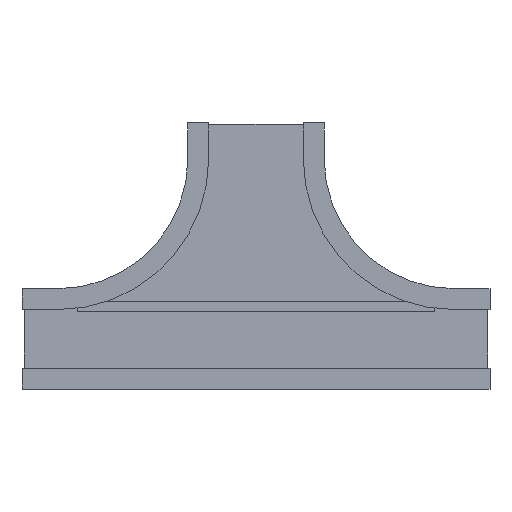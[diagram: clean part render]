
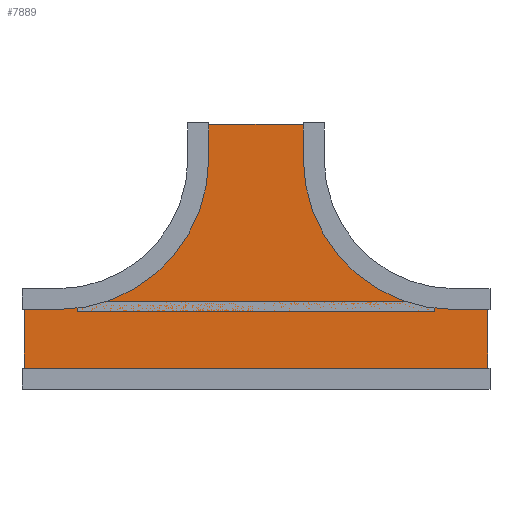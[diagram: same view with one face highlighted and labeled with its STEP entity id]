
A CAD part, front view. The second image highlights one B-rep face of the part: STEP entity #7889.
In plain terms, the highlighted planar face has unit normal (0, -1, 0).
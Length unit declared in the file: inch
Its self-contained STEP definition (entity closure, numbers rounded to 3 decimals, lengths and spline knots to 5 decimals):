
#7698=DIRECTION('',(1.,0.,0.));
#7699=VECTOR('',#7698,8.875);
#7700=CARTESIAN_POINT('',(-4.4375,0.,0.));
#7701=LINE('',#7700,#7699);
#7702=DIRECTION('',(0.,0.,-1.));
#7703=VECTOR('',#7702,2.875);
#7704=CARTESIAN_POINT('',(4.4375,0.,0.));
#7705=LINE('',#7704,#7703);
#7706=CARTESIAN_POINT('',(16.5,0.,-2.875));
#7707=DIRECTION('',(0.,-1.,0.));
#7708=DIRECTION('',(-1.,0.,0.));
#7709=AXIS2_PLACEMENT_3D('',#7706,#7707,#7708);
#7711=DIRECTION('',(1.,0.,0.));
#7712=VECTOR('',#7711,2.875);
#7713=CARTESIAN_POINT('',(16.5,0.,-14.9375));
#7714=LINE('',#7713,#7712);
#7715=DIRECTION('',(0.,0.,-1.));
#7716=VECTOR('',#7715,5.875);
#7717=CARTESIAN_POINT('',(19.375,0.,-14.9375));
#7718=LINE('',#7717,#7716);
#7719=DIRECTION('',(-1.,0.,0.));
#7720=VECTOR('',#7719,38.75);
#7721=CARTESIAN_POINT('',(19.375,0.,-20.8125));
#7722=LINE('',#7721,#7720);
#7723=DIRECTION('',(0.,0.,1.));
#7724=VECTOR('',#7723,5.875);
#7725=CARTESIAN_POINT('',(-19.375,0.,-20.8125));
#7726=LINE('',#7725,#7724);
#7727=DIRECTION('',(1.,0.,0.));
#7728=VECTOR('',#7727,2.875);
#7729=CARTESIAN_POINT('',(-19.375,0.,-14.9375));
#7730=LINE('',#7729,#7728);
#7731=CARTESIAN_POINT('',(-16.5,0.,-2.875));
#7732=DIRECTION('',(0.,-1.,0.));
#7733=DIRECTION('',(0.,0.,-1.));
#7734=AXIS2_PLACEMENT_3D('',#7731,#7732,#7733);
#7736=DIRECTION('',(0.,0.,1.));
#7737=VECTOR('',#7736,2.875);
#7738=CARTESIAN_POINT('',(-4.4375,0.,-2.875));
#7739=LINE('',#7738,#7737);
#7822=CARTESIAN_POINT('',(-4.4375,0.,0.));
#7823=CARTESIAN_POINT('',(4.4375,0.,0.));
#7824=VERTEX_POINT('',#7822);
#7825=VERTEX_POINT('',#7823);
#7826=CARTESIAN_POINT('',(4.4375,0.,-2.875));
#7827=VERTEX_POINT('',#7826);
#7828=CARTESIAN_POINT('',(16.5,0.,-14.9375));
#7829=VERTEX_POINT('',#7828);
#7830=CARTESIAN_POINT('',(19.375,0.,-14.9375));
#7831=VERTEX_POINT('',#7830);
#7832=CARTESIAN_POINT('',(19.375,0.,-20.8125));
#7833=VERTEX_POINT('',#7832);
#7834=CARTESIAN_POINT('',(-19.375,0.,-20.8125));
#7835=VERTEX_POINT('',#7834);
#7836=CARTESIAN_POINT('',(-19.375,0.,-14.9375));
#7837=VERTEX_POINT('',#7836);
#7838=CARTESIAN_POINT('',(-16.5,0.,-14.9375));
#7839=VERTEX_POINT('',#7838);
#7840=CARTESIAN_POINT('',(-4.4375,0.,-2.875));
#7841=VERTEX_POINT('',#7840);
#7862=CARTESIAN_POINT('',(0.,0.,0.));
#7863=DIRECTION('',(0.,1.,0.));
#7864=DIRECTION('',(1.,0.,0.));
#7865=AXIS2_PLACEMENT_3D('',#7862,#7863,#7864);
#7866=PLANE('',#7865);
#7868=ORIENTED_EDGE('',*,*,#7867,.T.);
#7870=ORIENTED_EDGE('',*,*,#7869,.T.);
#7872=ORIENTED_EDGE('',*,*,#7871,.T.);
#7874=ORIENTED_EDGE('',*,*,#7873,.T.);
#7876=ORIENTED_EDGE('',*,*,#7875,.T.);
#7878=ORIENTED_EDGE('',*,*,#7877,.T.);
#7880=ORIENTED_EDGE('',*,*,#7879,.T.);
#7882=ORIENTED_EDGE('',*,*,#7881,.T.);
#7884=ORIENTED_EDGE('',*,*,#7883,.T.);
#7886=ORIENTED_EDGE('',*,*,#7885,.T.);
#7887=EDGE_LOOP('',(#7868,#7870,#7872,#7874,#7876,#7878,#7880,#7882,#7884,
#7886));
#7888=FACE_OUTER_BOUND('',#7887,.F.);
#7889=ADVANCED_FACE('',(#7888),#7866,.F.);
#7710=CIRCLE('',#7709,12.0625);
#7735=CIRCLE('',#7734,12.0625);
#7867=EDGE_CURVE('',#7824,#7825,#7701,.T.);
#7869=EDGE_CURVE('',#7825,#7827,#7705,.T.);
#7871=EDGE_CURVE('',#7827,#7829,#7710,.T.);
#7873=EDGE_CURVE('',#7829,#7831,#7714,.T.);
#7875=EDGE_CURVE('',#7831,#7833,#7718,.T.);
#7877=EDGE_CURVE('',#7833,#7835,#7722,.T.);
#7879=EDGE_CURVE('',#7835,#7837,#7726,.T.);
#7881=EDGE_CURVE('',#7837,#7839,#7730,.T.);
#7883=EDGE_CURVE('',#7839,#7841,#7735,.T.);
#7885=EDGE_CURVE('',#7841,#7824,#7739,.T.);
